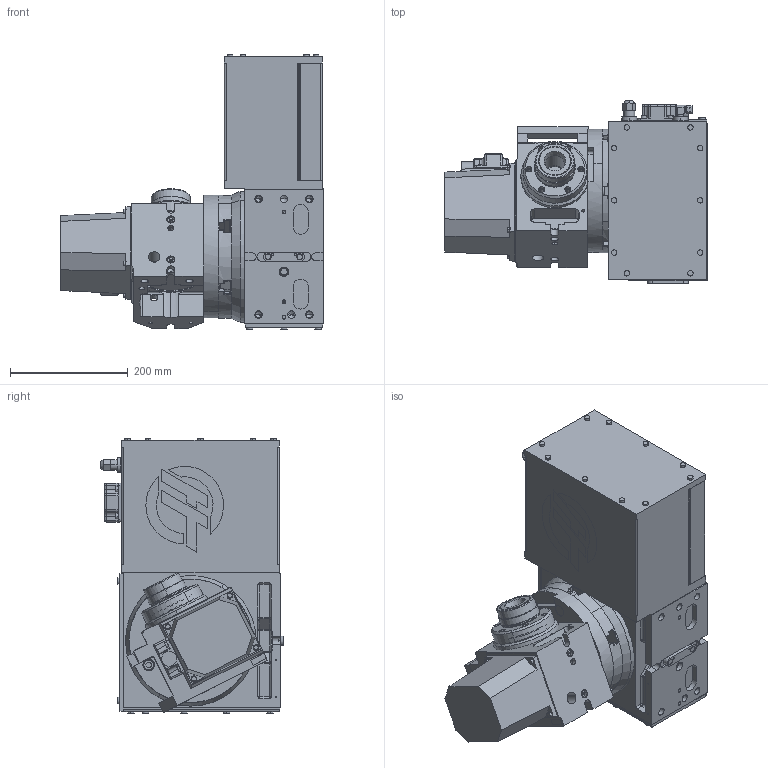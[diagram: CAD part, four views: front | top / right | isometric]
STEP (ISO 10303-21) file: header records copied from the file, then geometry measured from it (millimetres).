
FILE_DESCRIPTION (( 'STEP AP214' ), '1' );
FILE_NAME ('T5C_STEP_11_2021.STEP', '2021-11-29T23:11:39', ( '' ), ( '' ), 'SwSTEP 2.0', 'SolidWorks 2021', '' );
FILE_SCHEMA (( 'AUTOMOTIVE_DESIGN' ));
Length unit declared in the file: inch
Products named in the file (4): T5C-BODY; T5C-A-AXIS; T5C-B-AXIS; T5C_STEP_11_2021
Assembly tree (3 placements, depth 2):
  T5C_STEP_11_2021
    T5C-BODY
    T5C-A-AXIS
    T5C-B-AXIS
Bounding box: 446.22 x 312.13 x 468.46 mm (x, y, z)
Volume: 16161565.9 mm3; surface area: 1390790.1 mm2
Topology: 3 solids, 30 shells, 2624 faces, 6595 edges, 4120 vertices
Faces by surface type: cylinder 1098, plane 986, cone 343, torus 116, bspline 62, sphere 19
Entity records: 112215 total; most frequent: CARTESIAN_POINT 19627, DIRECTION 13549, ORIENTED_EDGE 12944, EDGE_CURVE 6472, AXIS2_PLACEMENT_3D 5245, VERTEX_POINT 4120, LINE 3059, VECTOR 3059
